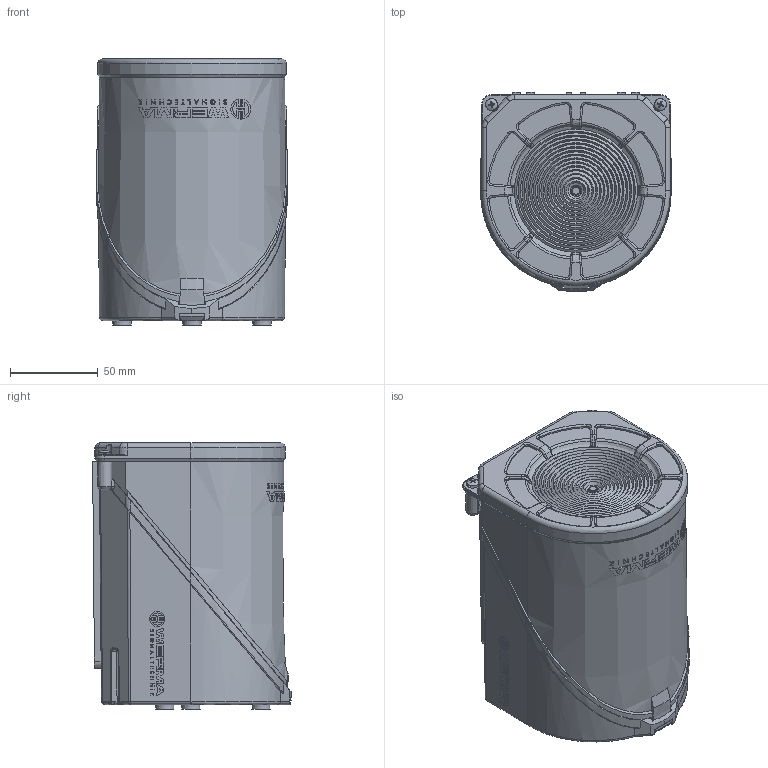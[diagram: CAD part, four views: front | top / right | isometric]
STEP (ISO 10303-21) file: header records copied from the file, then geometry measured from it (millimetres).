
FILE_DESCRIPTION(/* description */ ('Customer part'),/* implementation_level */ '2;1');
FILE_NAME(/* name */ 'C:\CEWorkDir\0050569C0EFC1ED8A298B99B818C00C0\in\800000006018_PRT_000.step',/* time_stamp */ '2018-07-16T15:37:36+02:00',/* author */ ('IMPORT'),/* organization */ ('WERMA Signaltechnik GmbH+Co.KG'),/* preprocessor_version */ 'ST-DEVELOPER v17',/* originating_system */ 'Autodesk Inventor 2018',/* authorisation */ 'public');
FILE_SCHEMA (('AUTOMOTIVE_DESIGN { 1 0 10303 214 3 1 1 }'));
Products named in the file (1): 800000006018
Bounding box: 108.95 x 113.56 x 152.06 mm (x, y, z)
Volume: 1436388.1 mm3; surface area: 86448.2 mm2
Topology: 1 solids, 7 shells, 1378 faces, 3701 edges, 2411 vertices
Faces by surface type: plane 801, cylinder 221, cone 160, bspline 132, torus 56, sphere 8
Full cylindrical faces by diameter (mm): 19.9 x1
Entity records: 62806 total; most frequent: CARTESIAN_POINT 27493, ORIENTED_EDGE 7378, DIRECTION 6695, EDGE_CURVE 3689, VERTEX_POINT 2411, AXIS2_PLACEMENT_3D 2280, LINE 2135, VECTOR 2135
